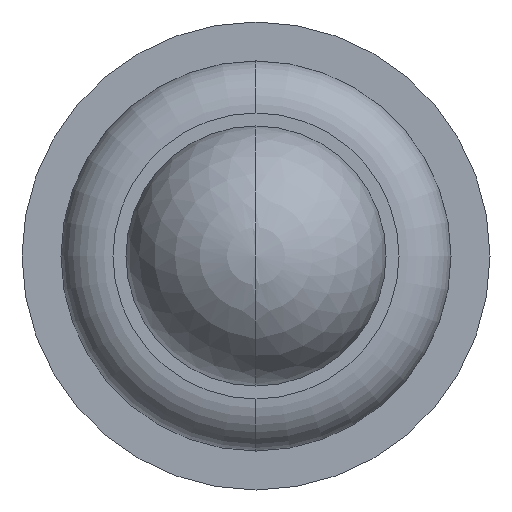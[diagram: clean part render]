
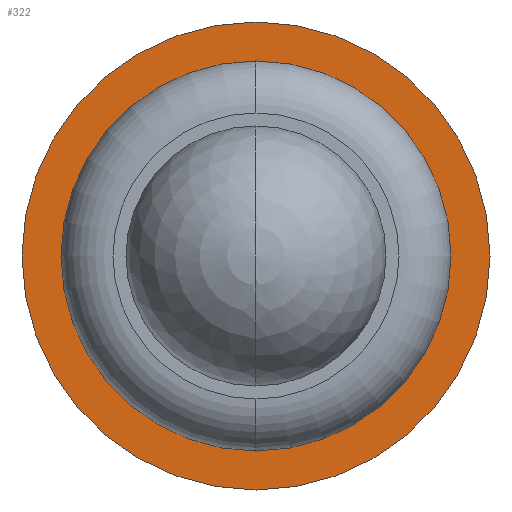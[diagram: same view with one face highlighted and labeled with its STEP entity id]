
A CAD part, left-side view. The second image highlights one B-rep face of the part: STEP entity #322.
In plain terms, the highlighted planar face has unit normal (-1, 0, 0).
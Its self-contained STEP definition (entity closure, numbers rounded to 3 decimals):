
#1=CARTESIAN_POINT('',(-2.,0.,0.));
#2=DIRECTION('',(1.,0.,0.));
#3=DIRECTION('',(0.,0.,-1.));
#4=AXIS2_PLACEMENT_3D('',#1,#2,#3);
#14=CARTESIAN_POINT('',(-2.,0.,0.));
#15=DIRECTION('',(-1.,0.,0.));
#16=DIRECTION('',(0.,0.,-1.));
#17=AXIS2_PLACEMENT_3D('',#14,#15,#16);
#87=CARTESIAN_POINT('',(-2.,0.,0.));
#88=DIRECTION('',(1.,0.,0.));
#89=DIRECTION('',(0.,0.,-1.));
#90=AXIS2_PLACEMENT_3D('',#87,#88,#89);
#92=CARTESIAN_POINT('',(-2.,0.,0.));
#93=DIRECTION('',(-1.,0.,0.));
#94=DIRECTION('',(0.,0.,-1.));
#95=AXIS2_PLACEMENT_3D('',#92,#93,#94);
#143=CARTESIAN_POINT('',(-2.,0.,-0.75));
#145=VERTEX_POINT('',#143);
#160=CARTESIAN_POINT('',(-2.,0.,-0.9));
#162=VERTEX_POINT('',#160);
#163=CARTESIAN_POINT('',(-2.,0.,0.75));
#165=VERTEX_POINT('',#163);
#178=CARTESIAN_POINT('',(-2.,0.,0.9));
#180=VERTEX_POINT('',#178);
#307=CARTESIAN_POINT('',(-2.,0.,0.));
#308=DIRECTION('',(1.,0.,0.));
#309=DIRECTION('',(0.,0.,1.));
#310=AXIS2_PLACEMENT_3D('',#307,#308,#309);
#311=PLANE('',#310);
#313=ORIENTED_EDGE('',*,*,#312,.T.);
#315=ORIENTED_EDGE('',*,*,#314,.F.);
#316=EDGE_LOOP('',(#313,#315));
#317=FACE_OUTER_BOUND('',#316,.F.);
#318=ORIENTED_EDGE('',*,*,#206,.T.);
#319=ORIENTED_EDGE('',*,*,#188,.F.);
#320=EDGE_LOOP('',(#318,#319));
#321=FACE_BOUND('',#320,.F.);
#322=ADVANCED_FACE('',(#317,#321),#311,.F.);
#5=CIRCLE('',#4,0.75);
#18=CIRCLE('',#17,0.75);
#91=CIRCLE('',#90,0.9);
#96=CIRCLE('',#95,0.9);
#188=EDGE_CURVE('',#145,#165,#5,.T.);
#206=EDGE_CURVE('',#145,#165,#18,.T.);
#312=EDGE_CURVE('',#162,#180,#91,.T.);
#314=EDGE_CURVE('',#162,#180,#96,.T.);
